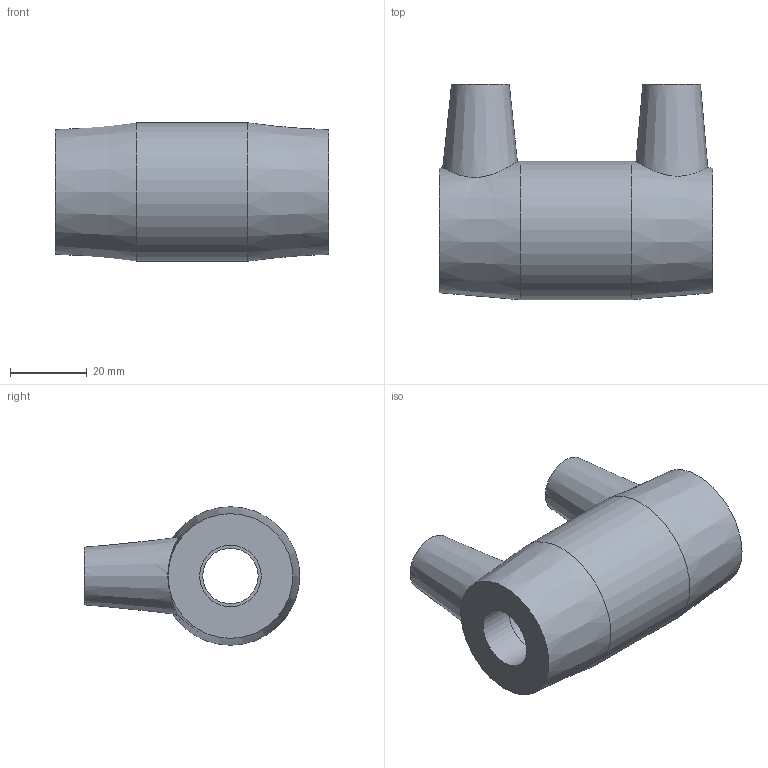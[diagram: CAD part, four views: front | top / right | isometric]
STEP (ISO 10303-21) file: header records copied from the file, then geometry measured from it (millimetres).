
FILE_DESCRIPTION(/* description */ ('PLASSON REDUCING COUPLER 25-16'),/* implementation_level */ '2;1');
FILE_NAME(/* name */ 'C:\Users\Lenora\Dropbox\99-16-3568-Processing\ElectroFusion Fittings\491104\491104025016.ipt.stp',/* time_stamp */ '2020-12-07T22:23:57+03:00',/* author */ ('KIM'),/* organization */ (''),/* preprocessor_version */ 'ST-DEVELOPER v17.2',/* originating_system */ 'Autodesk Inventor 2019',/* authorisation */ '');
FILE_SCHEMA (('AUTOMOTIVE_DESIGN { 1 0 10303 214 3 1 1 }'));
Length unit declared in the file: millimetre
Products named in the file (1): 491104025016
Bounding box: 71 x 56 x 36 mm (x, y, z)
Volume: 51610.1 mm3; surface area: 17218.4 mm2
Topology: 1 solids, 1 shells, 29 faces, 66 edges, 49 vertices
Faces by surface type: plane 12, cylinder 10, cone 7
Full cylindrical faces by diameter (mm): 4 x2, 10 x2, 14.4 x1, 16 x2, 25 x2, 36 x1
Entity records: 978 total; most frequent: CARTESIAN_POINT 221, DIRECTION 167, ORIENTED_EDGE 132, AXIS2_PLACEMENT_3D 75, EDGE_CURVE 66, VERTEX_POINT 49, CIRCLE 45, EDGE_LOOP 41
